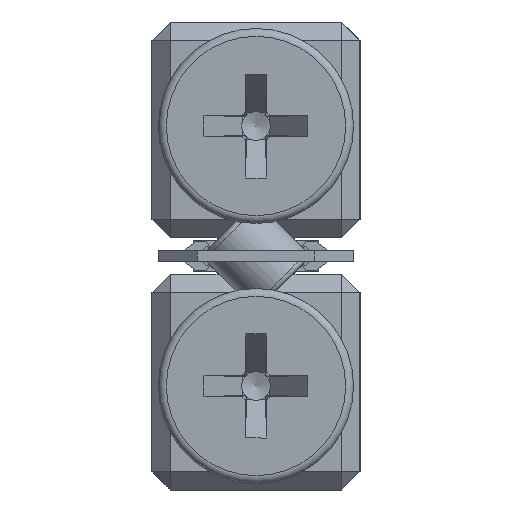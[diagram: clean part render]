
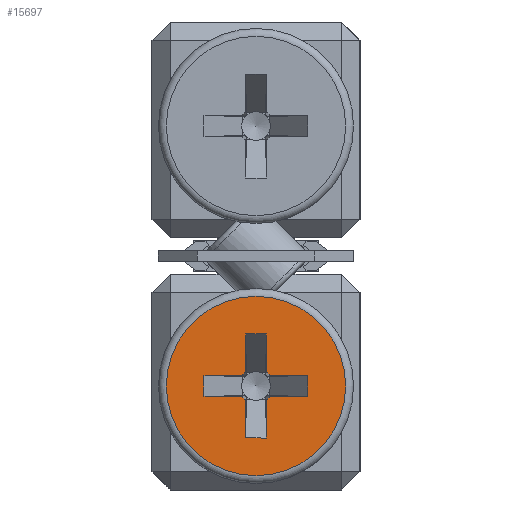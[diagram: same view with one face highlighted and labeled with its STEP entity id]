
A CAD part, left-side view. The second image highlights one B-rep face of the part: STEP entity #15697.
In plain terms, the highlighted planar face has unit normal (-1, 0, 0).
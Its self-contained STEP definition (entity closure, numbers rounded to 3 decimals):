
#218 = LINE ( 'NONE', #13129, #10758 ) ;
#388 = DIRECTION ( 'NONE',  ( 0., -1., 0. ) ) ;
#500 = CARTESIAN_POINT ( 'NONE',  ( -52., 0.4, 2. ) ) ;
#631 = EDGE_CURVE ( 'NONE', #15686, #12841, #2715, .T. ) ;
#650 = ORIENTED_EDGE ( 'NONE', *, *, #5567, .T. ) ;
#654 = CARTESIAN_POINT ( 'NONE',  ( -52., 0.4, 4.548 ) ) ;
#705 = DIRECTION ( 'NONE',  ( 0., 1., 0. ) ) ;
#813 = FACE_OUTER_BOUND ( 'NONE', #5836, .T. ) ;
#972 = DIRECTION ( 'NONE',  ( 0., 1., 0. ) ) ;
#999 = EDGE_CURVE ( 'NONE', #6813, #9873, #13741, .T. ) ;
#1109 = VERTEX_POINT ( 'NONE', #7592 ) ;
#1178 = CARTESIAN_POINT ( 'NONE',  ( -52., 0.4, 2. ) ) ;
#1196 = DIRECTION ( 'NONE',  ( 0., 0., -1. ) ) ;
#1256 = DIRECTION ( 'NONE',  ( 0., 0., 1. ) ) ;
#1634 = CARTESIAN_POINT ( 'NONE',  ( -52., -0.548, 3.6 ) ) ;
#1863 = EDGE_CURVE ( 'NONE', #6228, #9855, #4956, .T. ) ;
#1993 = LINE ( 'NONE', #7052, #10840 ) ;
#2045 = VECTOR ( 'NONE', #14767, 1000. ) ;
#2126 = ORIENTED_EDGE ( 'NONE', *, *, #2781, .F. ) ;
#2129 = VERTEX_POINT ( 'NONE', #4449 ) ;
#2279 = EDGE_CURVE ( 'NONE', #2129, #15851, #7331, .T. ) ;
#2382 = CARTESIAN_POINT ( 'NONE',  ( -52., -2., 3.6 ) ) ;
#2505 = AXIS2_PLACEMENT_3D ( 'NONE', #5731, #7057, #9807 ) ;
#2688 = CARTESIAN_POINT ( 'NONE',  ( -52., 0.548, 4.4 ) ) ;
#2715 = CIRCLE ( 'NONE', #4574, 0.678 ) ;
#2726 = EDGE_CURVE ( 'NONE', #16305, #12841, #218, .T. ) ;
#2781 = EDGE_CURVE ( 'NONE', #6836, #6226, #12889, .T. ) ;
#2910 = CARTESIAN_POINT ( 'NONE',  ( -52., 0., 4. ) ) ;
#3154 = CARTESIAN_POINT ( 'NONE',  ( -52., 0.4, 6. ) ) ;
#3406 = VERTEX_POINT ( 'NONE', #16351 ) ;
#3618 = AXIS2_PLACEMENT_3D ( 'NONE', #2910, #5550, #15634 ) ;
#3696 = CARTESIAN_POINT ( 'NONE',  ( -52., -2., 3.6 ) ) ;
#3891 = EDGE_LOOP ( 'NONE', ( #13937, #13694, #12354, #5766, #2126, #14698, #14547, #8171, #12870, #6420, #12206, #650, #12698, #16442, #12897, #11018 ) ) ;
#3989 = VERTEX_POINT ( 'NONE', #11820 ) ;
#4086 = VECTOR ( 'NONE', #1256, 1000. ) ;
#4449 = CARTESIAN_POINT ( 'NONE',  ( -52., -0.4, 3.452 ) ) ;
#4574 = AXIS2_PLACEMENT_3D ( 'NONE', #10980, #4665, #9735 ) ;
#4652 = CARTESIAN_POINT ( 'NONE',  ( -52., 2., 4.4 ) ) ;
#4665 = DIRECTION ( 'NONE',  ( -1., 0., 0. ) ) ;
#4684 = CARTESIAN_POINT ( 'NONE',  ( -52., -2., 4.4 ) ) ;
#4734 = FACE_BOUND ( 'NONE', #3891, .T. ) ;
#4922 = DIRECTION ( 'NONE',  ( 0., -1., 0. ) ) ;
#4928 = LINE ( 'NONE', #1178, #4086 ) ;
#4956 = LINE ( 'NONE', #2382, #10532 ) ;
#4973 = LINE ( 'NONE', #8709, #15484 ) ;
#5214 = DIRECTION ( 'NONE',  ( 0., 0., -1. ) ) ;
#5550 = DIRECTION ( 'NONE',  ( -1., 0., 0. ) ) ;
#5567 = EDGE_CURVE ( 'NONE', #3989, #9873, #14853, .T. ) ;
#5610 = EDGE_CURVE ( 'NONE', #6228, #12186, #16360, .T. ) ;
#5731 = CARTESIAN_POINT ( 'NONE',  ( -52., 3.75, 4. ) ) ;
#5766 = ORIENTED_EDGE ( 'NONE', *, *, #12059, .T. ) ;
#5803 = CARTESIAN_POINT ( 'NONE',  ( -52., -0.548, 4.4 ) ) ;
#5836 = EDGE_LOOP ( 'NONE', ( #12348 ) ) ;
#5940 = CARTESIAN_POINT ( 'NONE',  ( -52., 0., 4. ) ) ;
#6226 = VERTEX_POINT ( 'NONE', #15912 ) ;
#6228 = VERTEX_POINT ( 'NONE', #9488 ) ;
#6292 = DIRECTION ( 'NONE',  ( 0., 0., 1. ) ) ;
#6342 = VECTOR ( 'NONE', #12427, 1000. ) ;
#6420 = ORIENTED_EDGE ( 'NONE', *, *, #15532, .T. ) ;
#6763 = AXIS2_PLACEMENT_3D ( 'NONE', #7597, #12769, #1196 ) ;
#6813 = VERTEX_POINT ( 'NONE', #5803 ) ;
#6836 = VERTEX_POINT ( 'NONE', #13541 ) ;
#7052 = CARTESIAN_POINT ( 'NONE',  ( -52., -0.4, 6. ) ) ;
#7057 = DIRECTION ( 'NONE',  ( 1., 0., 0. ) ) ;
#7169 = EDGE_CURVE ( 'NONE', #6813, #9855, #13664, .T. ) ;
#7331 = LINE ( 'NONE', #9765, #2045 ) ;
#7350 = LINE ( 'NONE', #12436, #13367 ) ;
#7434 = DIRECTION ( 'NONE',  ( 0., 0., 1. ) ) ;
#7592 = CARTESIAN_POINT ( 'NONE',  ( -52., 0., 0.55 ) ) ;
#7597 = CARTESIAN_POINT ( 'NONE',  ( -52., 0., 4. ) ) ;
#8144 = EDGE_CURVE ( 'NONE', #16305, #16210, #4973, .T. ) ;
#8171 = ORIENTED_EDGE ( 'NONE', *, *, #2726, .T. ) ;
#8407 = EDGE_CURVE ( 'NONE', #6836, #16210, #7350, .T. ) ;
#8426 = VECTOR ( 'NONE', #14657, 1000. ) ;
#8499 = CARTESIAN_POINT ( 'NONE',  ( -52., 2., 4.4 ) ) ;
#8676 = DIRECTION ( 'NONE',  ( 0., 0., -1. ) ) ;
#8709 = CARTESIAN_POINT ( 'NONE',  ( -52., 2., 4.4 ) ) ;
#8807 = CARTESIAN_POINT ( 'NONE',  ( -52., 0., 4. ) ) ;
#8868 = VERTEX_POINT ( 'NONE', #3154 ) ;
#9488 = CARTESIAN_POINT ( 'NONE',  ( -52., -2., 3.6 ) ) ;
#9735 = DIRECTION ( 'NONE',  ( 0., 0., 1. ) ) ;
#9765 = CARTESIAN_POINT ( 'NONE',  ( -52., -0.4, 6. ) ) ;
#9770 = AXIS2_PLACEMENT_3D ( 'NONE', #8807, #16405, #15232 ) ;
#9807 = DIRECTION ( 'NONE',  ( 0., 0., -1. ) ) ;
#9850 = CARTESIAN_POINT ( 'NONE',  ( -52., -0.4, 6. ) ) ;
#9855 = VERTEX_POINT ( 'NONE', #4684 ) ;
#9873 = VERTEX_POINT ( 'NONE', #12410 ) ;
#10216 = CARTESIAN_POINT ( 'NONE',  ( -52., 0.4, 2. ) ) ;
#10532 = VECTOR ( 'NONE', #7434, 1000. ) ;
#10758 = VECTOR ( 'NONE', #388, 1000. ) ;
#10828 = AXIS2_PLACEMENT_3D ( 'NONE', #5940, #11023, #16113 ) ;
#10840 = VECTOR ( 'NONE', #972, 1000. ) ;
#10980 = CARTESIAN_POINT ( 'NONE',  ( -52., 0., 4. ) ) ;
#11018 = ORIENTED_EDGE ( 'NONE', *, *, #5610, .T. ) ;
#11023 = DIRECTION ( 'NONE',  ( -1., 0., 0. ) ) ;
#11347 = EDGE_CURVE ( 'NONE', #3406, #15851, #15752, .T. ) ;
#11547 = VECTOR ( 'NONE', #6292, 1000. ) ;
#11820 = CARTESIAN_POINT ( 'NONE',  ( -52., -0.4, 6. ) ) ;
#12059 = EDGE_CURVE ( 'NONE', #3406, #6226, #14046, .T. ) ;
#12186 = VERTEX_POINT ( 'NONE', #1634 ) ;
#12206 = ORIENTED_EDGE ( 'NONE', *, *, #13557, .F. ) ;
#12348 = ORIENTED_EDGE ( 'NONE', *, *, #12429, .T. ) ;
#12354 = ORIENTED_EDGE ( 'NONE', *, *, #11347, .F. ) ;
#12410 = CARTESIAN_POINT ( 'NONE',  ( -52., -0.4, 4.548 ) ) ;
#12427 = DIRECTION ( 'NONE',  ( 0., 1., 0. ) ) ;
#12429 = EDGE_CURVE ( 'NONE', #1109, #1109, #12881, .T. ) ;
#12436 = CARTESIAN_POINT ( 'NONE',  ( -52., -2., 3.6 ) ) ;
#12698 = ORIENTED_EDGE ( 'NONE', *, *, #999, .F. ) ;
#12769 = DIRECTION ( 'NONE',  ( -1., 0., 0. ) ) ;
#12841 = VERTEX_POINT ( 'NONE', #2688 ) ;
#12870 = ORIENTED_EDGE ( 'NONE', *, *, #631, .F. ) ;
#12881 = CIRCLE ( 'NONE', #6763, 3.45 ) ;
#12889 = CIRCLE ( 'NONE', #3618, 0.678 ) ;
#12897 = ORIENTED_EDGE ( 'NONE', *, *, #1863, .F. ) ;
#13129 = CARTESIAN_POINT ( 'NONE',  ( -52., 2., 4.4 ) ) ;
#13367 = VECTOR ( 'NONE', #705, 1000. ) ;
#13541 = CARTESIAN_POINT ( 'NONE',  ( -52., 0.548, 3.6 ) ) ;
#13557 = EDGE_CURVE ( 'NONE', #3989, #8868, #1993, .T. ) ;
#13633 = PLANE ( 'NONE',  #2505 ) ;
#13664 = LINE ( 'NONE', #8499, #15473 ) ;
#13694 = ORIENTED_EDGE ( 'NONE', *, *, #2279, .T. ) ;
#13741 = CIRCLE ( 'NONE', #10828, 0.678 ) ;
#13805 = VECTOR ( 'NONE', #8676, 1000. ) ;
#13937 = ORIENTED_EDGE ( 'NONE', *, *, #14342, .F. ) ;
#13947 = CARTESIAN_POINT ( 'NONE',  ( -52., 2., 3.6 ) ) ;
#14046 = LINE ( 'NONE', #10216, #11547 ) ;
#14134 = CARTESIAN_POINT ( 'NONE',  ( -52., -0.4, 2. ) ) ;
#14342 = EDGE_CURVE ( 'NONE', #2129, #12186, #15667, .T. ) ;
#14547 = ORIENTED_EDGE ( 'NONE', *, *, #8144, .F. ) ;
#14657 = DIRECTION ( 'NONE',  ( 0., -1., 0. ) ) ;
#14698 = ORIENTED_EDGE ( 'NONE', *, *, #8407, .T. ) ;
#14767 = DIRECTION ( 'NONE',  ( 0., 0., -1. ) ) ;
#14853 = LINE ( 'NONE', #9850, #13805 ) ;
#15232 = DIRECTION ( 'NONE',  ( 0., 0., 1. ) ) ;
#15473 = VECTOR ( 'NONE', #4922, 1000. ) ;
#15484 = VECTOR ( 'NONE', #5214, 1000. ) ;
#15532 = EDGE_CURVE ( 'NONE', #15686, #8868, #4928, .T. ) ;
#15634 = DIRECTION ( 'NONE',  ( 0., 0., 1. ) ) ;
#15667 = CIRCLE ( 'NONE', #9770, 0.678 ) ;
#15686 = VERTEX_POINT ( 'NONE', #654 ) ;
#15697 = ADVANCED_FACE ( 'NONE', ( #813, #4734 ), #13633, .F. ) ;
#15752 = LINE ( 'NONE', #500, #8426 ) ;
#15851 = VERTEX_POINT ( 'NONE', #14134 ) ;
#15912 = CARTESIAN_POINT ( 'NONE',  ( -52., 0.4, 3.452 ) ) ;
#16113 = DIRECTION ( 'NONE',  ( 0., 0., 1. ) ) ;
#16210 = VERTEX_POINT ( 'NONE', #13947 ) ;
#16305 = VERTEX_POINT ( 'NONE', #4652 ) ;
#16351 = CARTESIAN_POINT ( 'NONE',  ( -52., 0.4, 2. ) ) ;
#16360 = LINE ( 'NONE', #3696, #6342 ) ;
#16405 = DIRECTION ( 'NONE',  ( -1., 0., 0. ) ) ;
#16442 = ORIENTED_EDGE ( 'NONE', *, *, #7169, .T. ) ;
